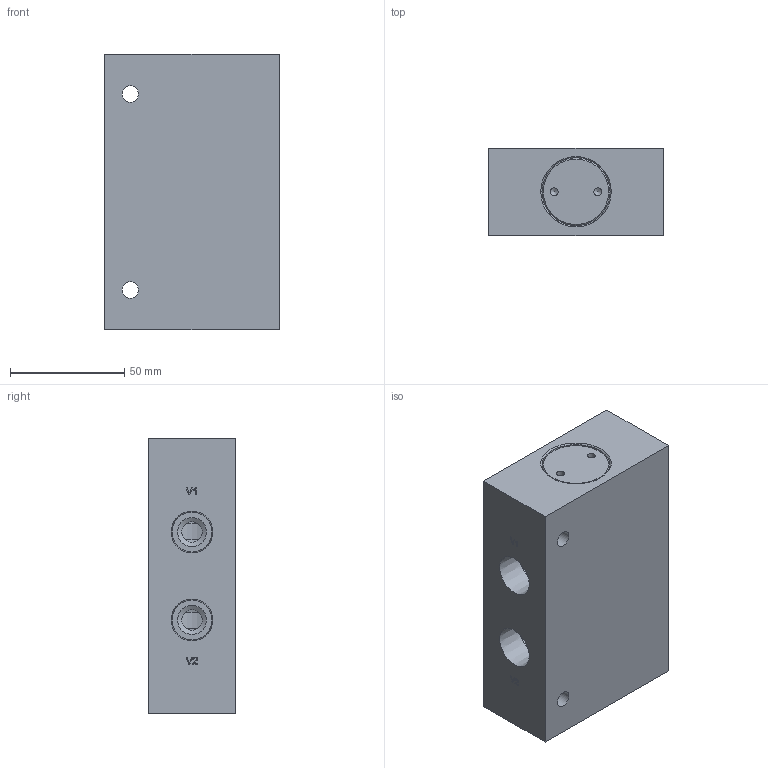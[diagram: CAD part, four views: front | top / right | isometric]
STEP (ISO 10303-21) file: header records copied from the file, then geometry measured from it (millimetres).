
FILE_DESCRIPTION(/* description */ (''),/* implementation_level */ '2;1');
FILE_NAME(/* name */ 'L:\ALADCO\Advertising\3D Content\Valves\Step Files - 2014-11-19 thru Present\62500X.stp',/* time_stamp */ '2014-11-20T10:14:05-06:00',/* author */ ('dmatz'),/* organization */ ('Aladdin Eng. & Manf. Inc.'),/* preprocessor_version */ 'ST-DEVELOPER v15.2',/* originating_system */ 'Autodesk Inventor 2014',/* authorisation */ '0 in^3');
FILE_SCHEMA (('AUTOMOTIVE_DESIGN { 1 0 10303 214 3 1 1 }'));
Length unit declared in the file: inch
Products named in the file (3): 620028; 620025; 625001
Bounding box: 76.2 x 38.1 x 120.65 mm (x, y, z)
Volume: 280910.4 mm3; surface area: 57752.6 mm2
Topology: 3 solids, 3 shells, 249 faces, 623 edges, 402 vertices
Faces by surface type: plane 98, bspline 66, cylinder 51, cone 28, torus 6
Full cylindrical faces by diameter (mm): 3.454 x4, 7.144 x2, 8.992 x4, 12.7 x4, 13.081 x2, 16.129 x2, 17.475 x4, 21.107 x2, 25.4 x1, 26.035 x2, 28.524 x4, 28.575 x4, 29.591 x2, 29.766 x2, 31.75 x2
Entity records: 6607 total; most frequent: CARTESIAN_POINT 2317, ORIENTED_EDGE 840, DIRECTION 668, EDGE_CURVE 420, VERTEX_POINT 302, EDGE_LOOP 290, AXIS2_PLACEMENT_3D 239, ADVANCED_FACE 199
